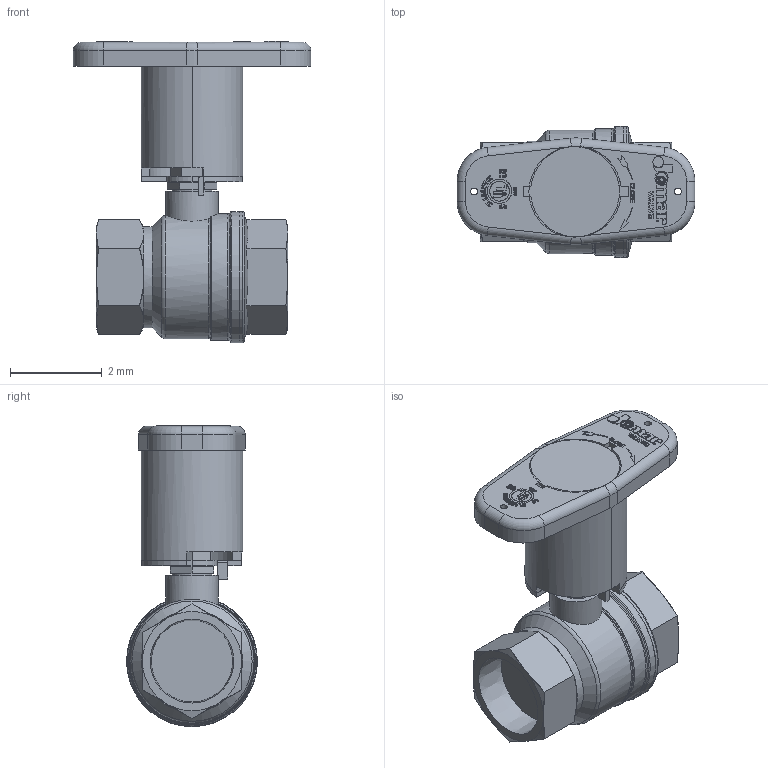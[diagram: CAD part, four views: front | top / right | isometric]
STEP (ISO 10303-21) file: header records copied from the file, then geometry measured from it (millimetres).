
FILE_DESCRIPTION(('Open CASCADE Model'),'2;1');
FILE_NAME('Open CASCADE Shape Model','2021-10-12T08:22:23',('Author'),( 'Open CASCADE'),'Open CASCADE STEP processor 7.3','Open CASCADE 7.3' ,'Unknown');
FILE_SCHEMA(('AUTOMOTIVE_DESIGN { 1 0 10303 214 1 1 1 1 }'));
Length unit declared in the file: millimetre
Products named in the file (2666): Open CASCADE STEP translator 7.3 1; Open CASCADE STEP translator 7.3 1.1; Open CASCADE STEP translator 7.3 1.2; Open CASCADE STEP translator 7.3 1.3; Open CASCADE STEP translator 7.3 1.4; Open CASCADE STEP translator 7.3 1.5; Open CASCADE STEP translator 7.3 1.6; Open CASCADE STEP translator 7.3 1.7; Open CASCADE STEP translator 7.3 1.8; Open CASCADE STEP translator 7.3 1.9; Open CASCADE STEP translator 7.3 1.10; Open CASCADE STEP translator 7.3 1.11; Open CASCADE STEP translator 7.3 1.12; Open CASCADE STEP translator 7.3 1.13; Open CASCADE STEP translator 7.3 1.14; Open CASCADE STEP translator 7.3 1.15; Open CASCADE STEP translator 7.3 1.16; Open CASCADE STEP translator 7.3 1.17; Open CASCADE STEP translator 7.3 1.18; Open CASCADE STEP translator 7.3 1.19; Open CASCADE STEP translator 7.3 1.20; Open CASCADE STEP translator 7.3 1.21; Open CASCADE STEP translator 7.3 1.22; Open CASCADE STEP translator 7.3 1.23; Open CASCADE STEP translator 7.3 1.24; Open CASCADE STEP translator 7.3 1.25; Open CASCADE STEP translator 7.3 1.26; Open CASCADE STEP translator 7.3 1.27; Open CASCADE STEP translator 7.3 1.28; Open CASCADE STEP translator 7.3 1.29; Open CASCADE STEP translator 7.3 1.30; Open CASCADE STEP translator 7.3 1.31; Open CASCADE STEP translator 7.3 1.32; Open CASCADE STEP translator 7.3 1.33; Open CASCADE STEP translator 7.3 1.34; Open CASCADE STEP translator 7.3 1.35; Open CASCADE STEP translator 7.3 1.36; Open CASCADE STEP translator 7.3 1.37; Open CASCADE STEP translator 7.3 1.38; Open CASCADE STEP translator 7.3 1.39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
Assembly tree (2665 placements, depth 2):
  Open CASCADE STEP translator 7.3 1
    Open CASCADE STEP translator 7.3 1.1
    Open CASCADE STEP translator 7.3 1.2
    Open CASCADE STEP translator 7.3 1.3
    Open CASCADE STEP translator 7.3 1.4
    Open CASCADE STEP translator 7.3 1.5
    Open CASCADE STEP translator 7.3 1.6
    Open CASCADE STEP translator 7.3 1.7
    Open CASCADE STEP translator 7.3 1.8
    Open CASCADE STEP translator 7.3 1.9
    Open CASCADE STEP translator 7.3 1.10
    Open CASCADE STEP translator 7.3 1.11
    Open CASCADE STEP translator 7.3 1.12
    Open CASCADE STEP translator 7.3 1.13
    Open CASCADE STEP translator 7.3 1.14
    Open CASCADE STEP translator 7.3 1.15
    Open CASCADE STEP translator 7.3 1.16
    Open CASCADE STEP translator 7.3 1.17
    Open CASCADE STEP translator 7.3 1.18
    Open CASCADE STEP translator 7.3 1.19
    Open CASCADE STEP translator 7.3 1.20
    Open CASCADE STEP translator 7.3 1.21
    Open CASCADE STEP translator 7.3 1.22
    Open CASCADE STEP translator 7.3 1.23
    Open CASCADE STEP translator 7.3 1.24
    Open CASCADE STEP translator 7.3 1.25
    Open CASCADE STEP translator 7.3 1.26
    Open CASCADE STEP translator 7.3 1.27
    Open CASCADE STEP translator 7.3 1.28
    Open CASCADE STEP translator 7.3 1.29
    Open CASCADE STEP translator 7.3 1.30
    Open CASCADE STEP translator 7.3 1.31
    Open CASCADE STEP translator 7.3 1.32
    Open CASCADE STEP translator 7.3 1.33
    Open CASCADE STEP translator 7.3 1.34
    Open CASCADE STEP translator 7.3 1.35
    Open CASCADE STEP translator 7.3 1.36
    Open CASCADE STEP translator 7.3 1.37
    Open CASCADE STEP translator 7.3 1.38
    Open CASCADE STEP translator 7.3 1.39
    Open CASCADE STEP translator 7.3 1.40
    Open CASCADE STEP translator 7.3 1.41
    Open CASCADE STEP translator 7.3 1.42
    Open CASCADE STEP translator 7.3 1.43
    Open CASCADE STEP translator 7.3 1.44
    Open CASCADE STEP translator 7.3 1.45
    Open CASCADE STEP translator 7.3 1.46
    Open CASCADE STEP translator 7.3 1.47
    Open CASCADE STEP translator 7.3 1.48
    Open CASCADE STEP translator 7.3 1.49
    Open CASCADE STEP translator 7.3 1.50
    Open CASCADE STEP translator 7.3 1.51
    Open CASCADE STEP translator 7.3 1.52
    Open CASCADE STEP translator 7.3 1.53
    Open CASCADE STEP translator 7.3 1.54
    Open CASCADE STEP translator 7.3 1.55
    Open CASCADE STEP translator 7.3 1.56
    Open CASCADE STEP translator 7.3 1.57
    Open CASCADE STEP translator 7.3 1.58
    Open CASCADE STEP translator 7.3 1.59
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Bounding box: 5.18 x 2.85 x 6.57 mm (x, y, z)
Surface area: 149 mm2 (no closed solid volume)
Topology: 0 solids, 2665 shells, 2665 faces, 15395 edges, 15362 vertices
Faces by surface type: plane 2510, cylinder 113, cone 24, torus 12, extrusion 6
Full cylindrical faces by diameter (mm): 0.028 x1, 0.032 x1, 0.083 x1, 0.148 x2, 0.232 x1, 0.575 x1, 0.659 x1, 0.66 x1, 0.864 x1, 1.135 x1, 1.786 x1, 1.843 x1, 1.899 x1, 1.974 x1, 2.205 x1, 2.689 x1, 2.756 x1, 2.854 x2
Entity records: 309647 total; most frequent: CARTESIAN_POINT 55833, DIRECTION 41594, VECTOR 29690, LINE 29684, ORIENTED_EDGE 15428, PCURVE 15428, DEFINITIONAL_REPRESENTATION 15428, EDGE_CURVE 15395
